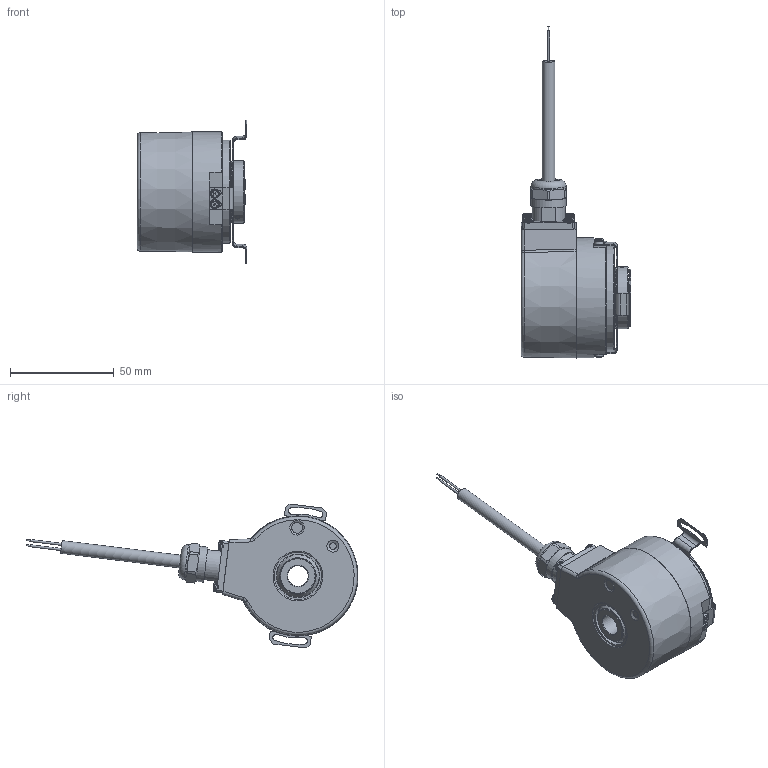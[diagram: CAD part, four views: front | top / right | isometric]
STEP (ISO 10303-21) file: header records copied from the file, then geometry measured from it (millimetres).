
FILE_DESCRIPTION (( 'STEP AP214' ), '1' );
FILE_NAME ('8.5834.53X2.XXXX.STEP', '2014-09-12T13:36:46', ( 'HeirlerN' ), ( 'Microsoft' ), 'SwSTEP 2.0', 'SolidWorks 2013', '' );
FILE_SCHEMA (( 'AUTOMOTIVE_DESIGN' ));
Length unit declared in the file: millimetre
Products named in the file (1): 8.5834.53X2.XXXX
Bounding box: 52.97 x 160.21 x 69.44 mm (x, y, z)
Surface area: 29047.6 mm2 (no closed solid volume)
Topology: 0 solids, 31 shells, 384 faces, 1121 edges, 761 vertices
Faces by surface type: plane 215, cylinder 98, cone 41, torus 19, sphere 7, bspline 4
Full cylindrical faces by diameter (mm): 0.6 x2, 1 x2, 2 x2, 2.05 x2, 3.2 x1, 4.5 x1, 5 x8, 5.2 x2, 6.1 x1, 8.2 x1, 9 x1, 10 x1, 17 x4, 21 x1, 23 x1, 30 x1, 32 x1, 34 x1, 58 x1
Entity records: 16915 total; most frequent: CARTESIAN_POINT 2849, DIRECTION 2105, ORIENTED_EDGE 1743, EDGE_CURVE 1037, AXIS2_PLACEMENT_3D 773, VERTEX_POINT 742, LINE 559, VECTOR 559
